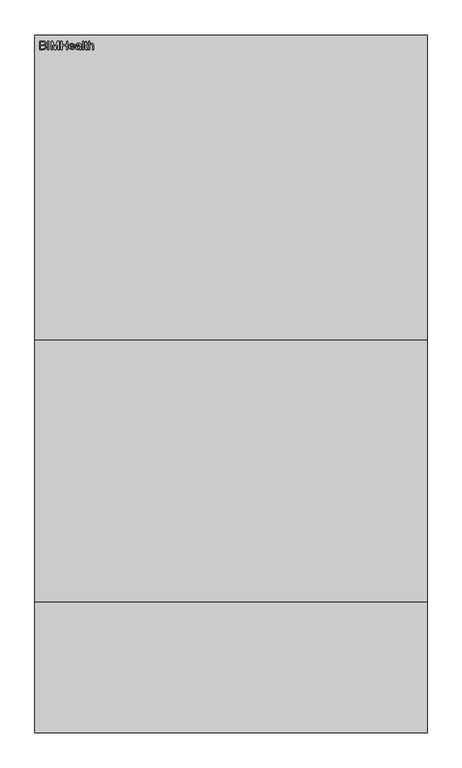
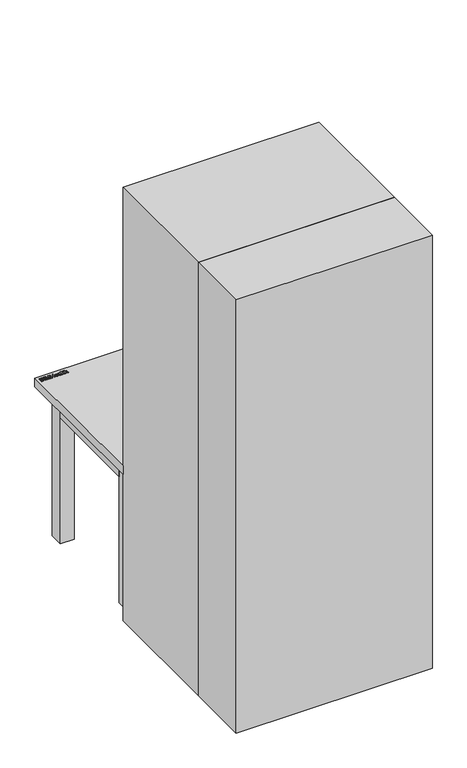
"""IFC4 building model written with IfcOpenShell, lengths in millimetres: furniture geometry, BIMHealth-Desk_Consultant-LOD2A-v1 : BIMHealth-Desk_Consultant-LOD2A-v1."""

from ifc_helpers import new_model, si_unit, frame, origin, origin_with_axes, place, context, project, spatial, polyline, outline, extrude, source, transform, mapped, element, save


def furniture_9a51d5b7(model_context):
    return source(origin(), model_context, "Body", "SweptSolid", [
        extrude(outline(polyline([(785.0, -617.5), (785.0, -650.0), (115.0, -650.0), (115.0, -617.5), (785.0, -617.5)])), frame((0.0, 0.0, 610.0), z_axis=(0.0, 0.0, 1.0), x_axis=(1.0, 0.0, 0.0)), (0.0, 0.0, 1.0), 100.0),
        extrude(outline(polyline([(785.0, -82.5), (115.0, -82.5), (115.0, -50.0), (785.0, -50.0), (785.0, -82.5)])), frame((0.0, 0.0, 610.0), z_axis=(0.0, 0.0, 1.0), x_axis=(1.0, 0.0, 0.0)), (0.0, 0.0, 1.0), 100.0),
        extrude(outline(polyline([(50.0, -585.0), (50.0, -115.0), (82.5, -115.0), (82.5, -585.0), (50.0, -585.0)])), frame((0.0, 0.0, 610.0), z_axis=(0.0, 0.0, 1.0), x_axis=(1.0, 0.0, 0.0)), (0.0, 0.0, 1.0), 100.0),
        extrude(outline(polyline([(850.0, -585.0), (817.5, -585.0), (817.5, -115.0), (850.0, -115.0), (850.0, -585.0)])), frame((0.0, 0.0, 610.0), z_axis=(0.0, 0.0, 1.0), x_axis=(1.0, 0.0, 0.0)), (0.0, 0.0, 1.0), 100.0),
        extrude(outline(polyline([(11.3672628, -33.4729978), (11.3672628, -13.7806901), (18.8816859, -13.7806901), (22.5619743, -14.360017), (24.7350513, -16.141267), (25.521109, -18.6604978), (24.8600513, -20.9609786), (22.8624551, -22.703767), (25.2879359, -24.5403055), (26.1364936, -27.6028055), (25.5571666, -30.2494401), (24.1220705, -32.1340555), (21.9802436, -33.1340555), (18.8239936, -33.4729978), (11.3672628, -33.4729978)]), holes=[polyline([(13.8288013, -21.7806901), (18.3239936, -21.7806901), (20.9489936, -21.5691517), (22.5283205, -20.658094), (23.0595705, -19.0547286), (22.5643782, -17.4489594), (21.146109, -16.4994401), (17.9826474, -16.2422286), (13.8288013, -16.2422286), (13.8288013, -21.7806901)]), polyline([(13.8288013, -31.0114594), (18.8768782, -31.0114594), (20.7038013, -30.9153055), (22.2494743, -30.3792478), (23.6749551, -27.626844), (23.2038013, -25.7133824), (21.677359, -24.5715555), (18.6364936, -24.2422286), (13.8288013, -24.2422286), (13.8288013, -31.0114594)])]), frame((0.0, 0.0, 750.0), z_axis=(0.0, 0.0, 1.0), x_axis=(1.0, 0.0, 0.0)), (0.0, 0.0, 1.0), 2.5),
        extrude(outline(polyline([(29.8288013, -33.4729978), (29.8288013, -13.7806901), (32.2903397, -13.7806901), (32.2903397, -33.4729978), (29.8288013, -33.4729978)])), frame((0.0, 0.0, 750.0), z_axis=(0.0, 0.0, 1.0), x_axis=(1.0, 0.0, 0.0)), (0.0, 0.0, 1.0), 2.5),
        extrude(outline(polyline([(37.2134166, -33.4729978), (37.2134166, -13.7806901), (41.4345705, -13.7806901), (45.473032, -27.6604978), (46.2903397, -30.5595363), (47.1701474, -27.4201132), (51.1316859, -13.7806901), (55.3672628, -13.7806901), (55.3672628, -33.4729978), (52.9057243, -33.4729978), (52.9057243, -16.2422286), (47.958609, -33.4729978), (44.6268782, -33.4729978), (39.6749551, -16.2422286), (39.6749551, -33.4729978), (37.2134166, -33.4729978)])), frame((0.0, 0.0, 750.0), z_axis=(0.0, 0.0, 1.0), x_axis=(1.0, 0.0, 0.0)), (0.0, 0.0, 1.0), 2.5),
        extrude(outline(polyline([(59.6749551, -33.4729978), (59.6749551, -13.7806901), (62.1364936, -13.7806901), (62.1364936, -21.7806901), (72.598032, -21.7806901), (72.598032, -13.7806901), (75.0595705, -13.7806901), (75.0595705, -33.4729978), (72.598032, -33.4729978), (72.598032, -24.2422286), (62.1364936, -24.2422286), (62.1364936, -33.4729978), (59.6749551, -33.4729978)])), frame((0.0, 0.0, 750.0), z_axis=(0.0, 0.0, 1.0), x_axis=(1.0, 0.0, 0.0)), (0.0, 0.0, 1.0), 2.5),
        extrude(outline(polyline([(89.1845705, -29.1653055), (91.598032, -29.4729978), (89.3408205, -32.6508824), (85.1364936, -33.7806901), (80.0259166, -31.8311709), (78.1364936, -26.3624209), (80.0451474, -20.7133824), (84.9970705, -18.703767), (89.8071666, -20.7085747), (91.6749551, -26.3479978), (80.598032, -27.0114594), (82.0138974, -30.2085747), (85.1845705, -31.3191517), (87.598032, -30.8047286), (89.1845705, -29.1653055)]), holes=[polyline([(80.598032, -24.5499209), (89.2134166, -24.5499209), (88.2278397, -22.3191517), (84.9874551, -21.1653055), (81.9562051, -22.0859786), (80.598032, -24.5499209)])]), frame((0.0, 0.0, 750.0), z_axis=(0.0, 0.0, 1.0), x_axis=(1.0, 0.0, 0.0)), (0.0, 0.0, 1.0), 2.5),
        extrude(outline(polyline([(103.3672628, -31.626844), (100.9802436, -33.2951132), (98.3432243, -33.7806901), (94.7687051, -32.6124209), (93.521109, -29.626844), (93.9922628, -27.6797286), (95.2302436, -26.266267), (96.9538013, -25.4585747), (99.083609, -25.0883824), (103.3528397, -24.2422286), (102.6893782, -21.876844), (99.9682243, -21.1653055), (97.4778397, -21.6388632), (96.2903397, -23.3191517), (93.8288013, -23.0114594), (94.8937051, -20.6076132), (97.0379359, -19.1989594), (100.285532, -18.703767), (103.2687051, -19.141267), (104.9538013, -20.2398247), (105.708609, -21.9104978), (105.8288013, -24.064344), (105.8288013, -27.126844), (105.9538013, -31.4032863), (106.4441859, -33.4729978), (103.9826474, -33.4729978), (103.3672628, -31.626844)]), holes=[polyline([(103.3600513, -27.0523247), (99.396109, -27.4585747), (97.2783205, -27.8576132), (98.8672628, -31.3191517), (101.3576474, -30.7302094), (102.9634166, -29.3047286), (103.3600513, -27.0523247)])]), frame((0.0, 0.0, 750.0), z_axis=(0.0, 0.0, 1.0), x_axis=(1.0, 0.0, 0.0)), (0.0, 0.0, 1.0), 2.5),
        extrude(outline(polyline([(109.2134166, -33.4729978), (109.2134166, -13.7806901), (111.6749551, -13.7806901), (111.6749551, -33.4729978), (109.2134166, -33.4729978)])), frame((0.0, 0.0, 750.0), z_axis=(0.0, 0.0, 1.0), x_axis=(1.0, 0.0, 0.0)), (0.0, 0.0, 1.0), 2.5),
        extrude(outline(polyline([(119.3672628, -30.4273247), (120.9057243, -33.5451132), (119.0643782, -33.7806901), (117.0018782, -33.3720363), (115.6749551, -29.5066517), (115.6749551, -21.4729978), (113.8288013, -21.4729978), (113.8288013, -19.0114594), (115.6749551, -19.0114594), (115.6749551, -15.4970363), (118.1364936, -14.0499209), (118.1364936, -19.0114594), (120.598032, -19.0114594), (120.598032, -21.4729978), (118.1364936, -21.4729978), (119.3672628, -30.4273247)])), frame((0.0, 0.0, 750.0), z_axis=(0.0, 0.0, 1.0), x_axis=(1.0, 0.0, 0.0)), (0.0, 0.0, 1.0), 2.5),
        extrude(outline(polyline([(123.0595705, -33.4729978), (123.0595705, -13.7806901), (125.521109, -13.7806901), (125.521109, -21.0210747), (129.8047628, -18.703767), (132.5691859, -19.3359786), (134.2470705, -21.0835747), (134.7518782, -24.3191517), (134.7518782, -33.4729978), (132.2903397, -33.4729978), (132.2903397, -24.5739594), (131.5066859, -21.9778055), (129.285532, -21.1653055), (127.2687051, -21.7133824), (125.9225513, -23.1989594), (125.521109, -25.7903055), (125.521109, -33.4729978), (123.0595705, -33.4729978)])), frame((0.0, 0.0, 750.0), z_axis=(0.0, 0.0, 1.0), x_axis=(1.0, 0.0, 0.0)), (0.0, 0.0, 1.0), 2.5),
        extrude(outline(polyline([(850.0, -585.0), (850.0, -650.0), (785.0, -650.0), (785.0, -585.0), (850.0, -585.0)])), origin_with_axes(), (0.0, 0.0, 1.0), 710.0),
        extrude(outline(polyline([(850.0, -115.0), (785.0, -115.0), (785.0, -50.0), (850.0, -50.0), (850.0, -115.0)])), origin_with_axes(), (0.0, 0.0, 1.0), 710.0),
        extrude(outline(polyline([(50.0, -585.0), (115.0, -585.0), (115.0, -650.0), (50.0, -650.0), (50.0, -585.0)])), origin_with_axes(), (0.0, 0.0, 1.0), 710.0),
        extrude(outline(polyline([(50.0, -115.0), (50.0, -50.0), (115.0, -50.0), (115.0, -115.0), (50.0, -115.0)])), origin_with_axes(), (0.0, 0.0, 1.0), 710.0),
        extrude(outline(polyline([(900.0, 0.0), (900.0, -700.0), (0.0, -700.0), (0.0, 0.0), (900.0, 0.0)])), frame((0.0, 0.0, 710.0), z_axis=(0.0, 0.0, 1.0), x_axis=(1.0, 0.0, 0.0)), (0.0, 0.0, 1.0), 40.0),
        extrude(outline(polyline([(900.0, -1300.0), (900.0, -1600.0), (0.0, -1600.0), (0.0, -1300.0), (900.0, -1300.0)])), origin_with_axes(), (0.0, 0.0, 1.0), 2100.0),
        extrude(outline(polyline([(900.0, -700.0), (900.0, -1300.0), (0.0, -1300.0), (0.0, -700.0), (900.0, -700.0)])), origin_with_axes(), (0.0, 0.0, 1.0), 2100.0),
    ])


if __name__ == "__main__":
    model = new_model("IFC4")
    model_context = context("Model", 3, world=origin())
    ifc_project = project(units=[si_unit("LENGTHUNIT", "METRE", prefix="MILLI")], contexts=[model_context])
    site = spatial("IfcSite", under=ifc_project)
    building = spatial("IfcBuilding", under=site)
    placement = place(None, origin())
    furniture_shape = furniture_9a51d5b7(model_context)
    element("IfcFurniture", 1, ObjectType="BIMHealth-Desk_Consultant-LOD2A-v1 : BIMHealth-Desk_Consultant-LOD2A-v1", at=placement, inside=building, context=model_context, shape_type="MappedRepresentation", body=[
        mapped(furniture_shape, transform((0.0, 0.0, 0.0), x_axis=(1.0, 0.0, 0.0), y_axis=(0.0, 1.0, 0.0), z_axis=(0.0, 0.0, 1.0))),
    ])
    save(model, "model.ifc")
